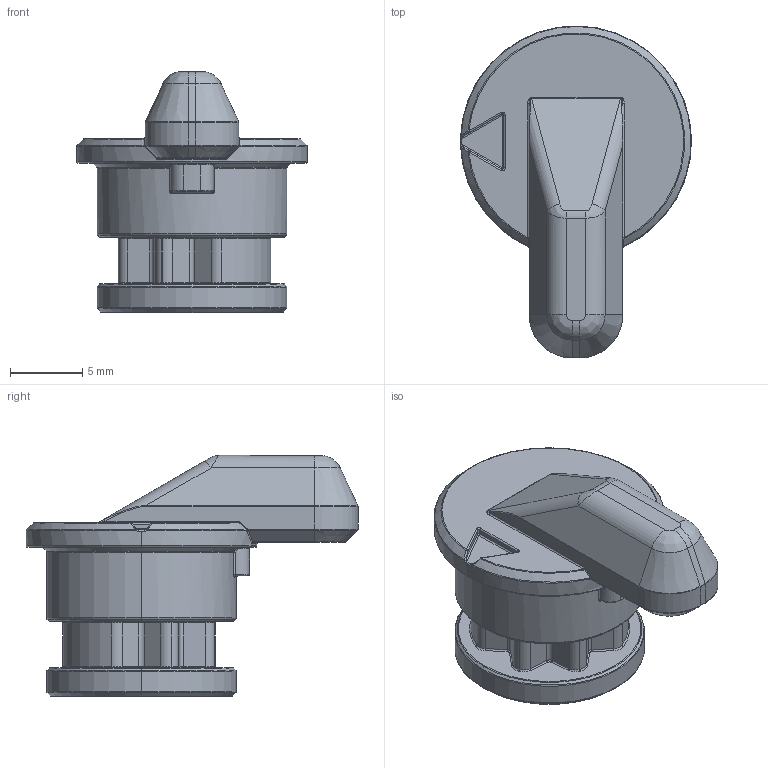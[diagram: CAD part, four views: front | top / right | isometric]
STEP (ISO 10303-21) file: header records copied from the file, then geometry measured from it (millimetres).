
FILE_DESCRIPTION((''),'2;1');
FILE_NAME('JAT-OVLADACE','2025-03-31T19:04:31',('jan'),(''),'CREO PARAMETRIC BY PTC INC, 2020342','CREO PARAMETRIC BY PTC INC, 2020342','');
FILE_SCHEMA(('CONFIG_CONTROL_DESIGN'));
Length unit declared in the file: millimetre
Products named in the file (1): JAT-OVLADACE
Bounding box: 16 x 23 x 16.7 mm (x, y, z)
Volume: 1800.1 mm3; surface area: 1309.9 mm2
Topology: 1 solids, 1 shells, 235 faces, 517 edges, 288 vertices
Faces by surface type: cylinder 75, torus 69, bspline 35, plane 33, cone 13, sphere 10
Entity records: 7914 total; most frequent: CARTESIAN_POINT 2797, DIRECTION 1152, ORIENTED_EDGE 1034, EDGE_CURVE 517, AXIS2_PLACEMENT_3D 502, CIRCLE 302, VERTEX_POINT 288, EDGE_LOOP 239
